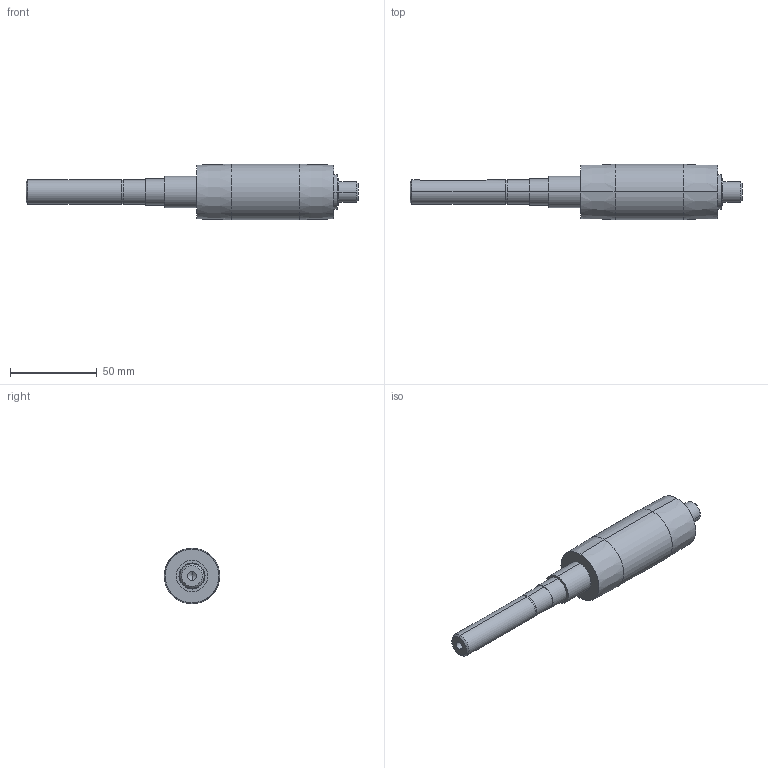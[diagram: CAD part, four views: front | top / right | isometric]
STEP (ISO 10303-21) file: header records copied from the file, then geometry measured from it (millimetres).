
FILE_DESCRIPTION (( 'STEP AP214' ), '1' );
FILE_NAME ('084.030.112.STEP', '2021-02-05T15:35:10', ( '' ), ( '' ), 'SwSTEP 2.0', 'SolidWorks 2018', '' );
FILE_SCHEMA (( 'AUTOMOTIVE_DESIGN' ));
Length unit declared in the file: millimetre
Products named in the file (1): 084.030.112
Bounding box: 191.5 x 32 x 32 mm (x, y, z)
Volume: 80845.3 mm3; surface area: 15100.8 mm2
Topology: 1 solids, 1 shells, 45 faces, 92 edges, 57 vertices
Faces by surface type: cylinder 22, plane 13, cone 10
Entity records: 1296 total; most frequent: CARTESIAN_POINT 255, DIRECTION 230, ORIENTED_EDGE 180, AXIS2_PLACEMENT_3D 96, EDGE_CURVE 90, VERTEX_POINT 57, EDGE_LOOP 55, CIRCLE 50
